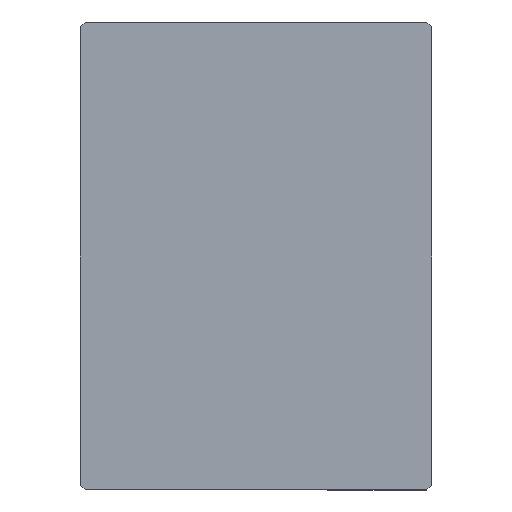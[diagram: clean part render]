
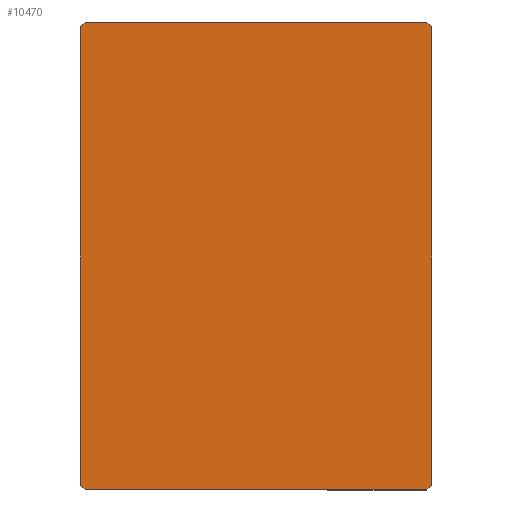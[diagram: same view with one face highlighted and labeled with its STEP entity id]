
A CAD part, left-side view. The second image highlights one B-rep face of the part: STEP entity #10470.
In plain terms, the highlighted planar face has unit normal (-1, 0, 0) as drawn and (0, 1, 0) by its records, which use the part's own axes.
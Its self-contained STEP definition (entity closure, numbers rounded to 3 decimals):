
#1347=PLANE('',#10790);
#1916=FACE_OUTER_BOUND('',#2533,.T.);
#2533=EDGE_LOOP('',(#9860,#9861,#9862,#9863,#9864,#9865,#9866,#9867));
#3277=LINE('',#21115,#4071);
#3293=LINE('',#21159,#4087);
#3297=LINE('',#21166,#4091);
#3299=LINE('',#21171,#4093);
#3305=LINE('',#21189,#4099);
#3318=LINE('',#21227,#4112);
#3333=LINE('',#21328,#4127);
#3334=LINE('',#21330,#4128);
#4071=VECTOR('',#11963,10.);
#4087=VECTOR('',#12007,10.);
#4091=VECTOR('',#12013,10.);
#4093=VECTOR('',#12019,10.);
#4099=VECTOR('',#12035,10.);
#4112=VECTOR('',#12078,10.);
#4127=VECTOR('',#12145,10.);
#4128=VECTOR('',#12148,10.);
#5164=VERTEX_POINT('',#21112);
#5165=VERTEX_POINT('',#21114);
#5178=VERTEX_POINT('',#21156);
#5179=VERTEX_POINT('',#21158);
#5182=VERTEX_POINT('',#21169);
#5187=VERTEX_POINT('',#21185);
#5189=VERTEX_POINT('',#21188);
#5199=VERTEX_POINT('',#21225);
#6688=EDGE_CURVE('',#5165,#5164,#3277,.T.);
#6706=EDGE_CURVE('',#5179,#5178,#3293,.T.);
#6710=EDGE_CURVE('',#5165,#5178,#3297,.T.);
#6712=EDGE_CURVE('',#5182,#5164,#3299,.T.);
#6720=EDGE_CURVE('',#5189,#5187,#3305,.T.);
#6739=EDGE_CURVE('',#5182,#5199,#3318,.T.);
#6771=EDGE_CURVE('',#5179,#5187,#3333,.T.);
#6772=EDGE_CURVE('',#5189,#5199,#3334,.T.);
#9860=ORIENTED_EDGE('',*,*,#6771,.F.);
#9861=ORIENTED_EDGE('',*,*,#6706,.T.);
#9862=ORIENTED_EDGE('',*,*,#6710,.F.);
#9863=ORIENTED_EDGE('',*,*,#6688,.T.);
#9864=ORIENTED_EDGE('',*,*,#6712,.F.);
#9865=ORIENTED_EDGE('',*,*,#6739,.T.);
#9866=ORIENTED_EDGE('',*,*,#6772,.F.);
#9867=ORIENTED_EDGE('',*,*,#6720,.T.);
#10470=ADVANCED_FACE('',(#1916),#1347,.T.);
#10790=AXIS2_PLACEMENT_3D('',#21329,#12146,#12147);
#11963=DIRECTION('',(0.,0.,1.));
#12007=DIRECTION('',(-1.,0.,0.));
#12013=DIRECTION('',(0.707,0.,-0.707));
#12019=DIRECTION('',(-0.707,0.,-0.707));
#12035=DIRECTION('',(0.,0.,-1.));
#12078=DIRECTION('',(1.,0.,0.));
#12145=DIRECTION('',(0.707,0.,0.707));
#12146=DIRECTION('center_axis',(0.,1.,0.));
#12147=DIRECTION('ref_axis',(0.,0.,1.));
#12148=DIRECTION('',(-0.707,0.,0.707));
#21112=CARTESIAN_POINT('',(0.,85.,99.));
#21114=CARTESIAN_POINT('',(0.,85.,1.));
#21115=CARTESIAN_POINT('',(0.,85.,100.));
#21156=CARTESIAN_POINT('',(1.,85.,0.));
#21158=CARTESIAN_POINT('',(74.,85.,0.));
#21159=CARTESIAN_POINT('',(0.,85.,0.));
#21166=CARTESIAN_POINT('',(-2.625,85.,3.625));
#21169=CARTESIAN_POINT('',(1.,85.,100.));
#21171=CARTESIAN_POINT('',(-2.625,85.,96.375));
#21185=CARTESIAN_POINT('',(75.,85.,1.));
#21188=CARTESIAN_POINT('',(75.,85.,99.));
#21189=CARTESIAN_POINT('',(75.,85.,0.));
#21225=CARTESIAN_POINT('',(74.,85.,100.));
#21227=CARTESIAN_POINT('',(75.,85.,100.));
#21328=CARTESIAN_POINT('',(77.625,85.,3.625));
#21329=CARTESIAN_POINT('Origin',(37.5,85.,50.));
#21330=CARTESIAN_POINT('',(77.625,85.,96.375));
